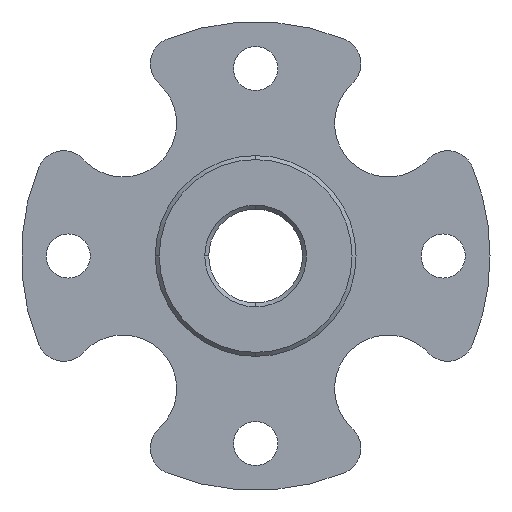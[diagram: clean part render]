
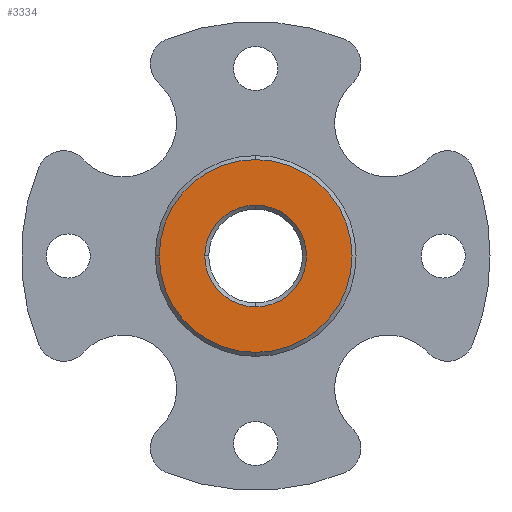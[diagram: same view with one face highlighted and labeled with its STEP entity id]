
A CAD part, front view. The second image highlights one B-rep face of the part: STEP entity #3334.
In plain terms, the highlighted planar face has unit normal (0, -1, 0).
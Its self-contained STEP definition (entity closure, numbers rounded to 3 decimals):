
#320 = CARTESIAN_POINT ( 'NONE',  ( 17.508, -2.5, -17.508 ) ) ;
#452 = VERTEX_POINT ( 'NONE', #12897 ) ;
#674 = CARTESIAN_POINT ( 'NONE',  ( 17.508, -2.5, -13.708 ) ) ;
#728 = DIRECTION ( 'NONE',  ( 0., 0., 1. ) ) ;
#866 = FACE_BOUND ( 'NONE', #9083, .T. ) ;
#969 = DIRECTION ( 'NONE',  ( 0., 0., 1. ) ) ;
#1058 = AXIS2_PLACEMENT_3D ( 'NONE', #4663, #5866, #1572 ) ;
#1186 = CIRCLE ( 'NONE', #7560, 7.2 ) ;
#1200 = ORIENTED_EDGE ( 'NONE', *, *, #11844, .T. ) ;
#1221 = CARTESIAN_POINT ( 'NONE',  ( 13.708, -2.5, -17.508 ) ) ;
#1572 = DIRECTION ( 'NONE',  ( 0., 0., 1. ) ) ;
#3241 = EDGE_CURVE ( 'NONE', #11467, #10746, #7042, .T. ) ;
#3334 = ADVANCED_FACE ( 'NONE', ( #866, #6568 ), #5296, .F. ) ;
#3399 = AXIS2_PLACEMENT_3D ( 'NONE', #8835, #10824, #13175 ) ;
#3764 = CARTESIAN_POINT ( 'NONE',  ( 17.508, -2.5, -10.308 ) ) ;
#3978 = EDGE_CURVE ( 'NONE', #452, #4382, #1186, .T. ) ;
#4295 = DIRECTION ( 'NONE',  ( 0., 1., 0. ) ) ;
#4325 = CARTESIAN_POINT ( 'NONE',  ( 17.508, -2.5, -17.508 ) ) ;
#4382 = VERTEX_POINT ( 'NONE', #9774 ) ;
#4537 = DIRECTION ( 'NONE',  ( 0., -1., 0. ) ) ;
#4566 = CARTESIAN_POINT ( 'NONE',  ( 17.508, -2.5, -17.508 ) ) ;
#4663 = CARTESIAN_POINT ( 'NONE',  ( 17.508, -2.5, -17.508 ) ) ;
#4771 = ORIENTED_EDGE ( 'NONE', *, *, #7154, .T. ) ;
#5258 = DIRECTION ( 'NONE',  ( 0., -1., 0. ) ) ;
#5296 = PLANE ( 'NONE',  #14126 ) ;
#5592 = VERTEX_POINT ( 'NONE', #674 ) ;
#5622 = ORIENTED_EDGE ( 'NONE', *, *, #3978, .T. ) ;
#5866 = DIRECTION ( 'NONE',  ( 0., -1., 0. ) ) ;
#6287 = VERTEX_POINT ( 'NONE', #3764 ) ;
#6296 = ORIENTED_EDGE ( 'NONE', *, *, #3241, .T. ) ;
#6498 = CARTESIAN_POINT ( 'NONE',  ( 17.508, -2.5, -17.508 ) ) ;
#6558 = ORIENTED_EDGE ( 'NONE', *, *, #10836, .T. ) ;
#6568 = FACE_OUTER_BOUND ( 'NONE', #9715, .T. ) ;
#7042 = CIRCLE ( 'NONE', #3399, 3.8 ) ;
#7154 = EDGE_CURVE ( 'NONE', #5592, #11467, #11911, .T. ) ;
#7206 = CIRCLE ( 'NONE', #1058, 7.2 ) ;
#7359 = DIRECTION ( 'NONE',  ( 0., 0., -1. ) ) ;
#7560 = AXIS2_PLACEMENT_3D ( 'NONE', #4325, #5258, #969 ) ;
#7732 = DIRECTION ( 'NONE',  ( 0., 0., -1. ) ) ;
#8010 = ORIENTED_EDGE ( 'NONE', *, *, #8304, .T. ) ;
#8304 = EDGE_CURVE ( 'NONE', #10746, #5592, #12229, .T. ) ;
#8835 = CARTESIAN_POINT ( 'NONE',  ( 17.508, -2.5, -17.508 ) ) ;
#9083 = EDGE_LOOP ( 'NONE', ( #6296, #8010, #4771 ) ) ;
#9578 = AXIS2_PLACEMENT_3D ( 'NONE', #320, #4537, #7732 ) ;
#9715 = EDGE_LOOP ( 'NONE', ( #1200, #6558, #5622 ) ) ;
#9774 = CARTESIAN_POINT ( 'NONE',  ( 17.508, -2.5, -24.708 ) ) ;
#9904 = DIRECTION ( 'NONE',  ( 0., 1., 0. ) ) ;
#10241 = CIRCLE ( 'NONE', #9578, 7.2 ) ;
#10494 = DIRECTION ( 'NONE',  ( 0., 1., 0. ) ) ;
#10746 = VERTEX_POINT ( 'NONE', #1221 ) ;
#10824 = DIRECTION ( 'NONE',  ( 0., 1., 0. ) ) ;
#10834 = DIRECTION ( 'NONE',  ( 0., 0., -1. ) ) ;
#10836 = EDGE_CURVE ( 'NONE', #6287, #452, #7206, .T. ) ;
#11467 = VERTEX_POINT ( 'NONE', #13455 ) ;
#11844 = EDGE_CURVE ( 'NONE', #4382, #6287, #10241, .T. ) ;
#11911 = CIRCLE ( 'NONE', #13748, 3.8 ) ;
#12000 = AXIS2_PLACEMENT_3D ( 'NONE', #4566, #9904, #10834 ) ;
#12229 = CIRCLE ( 'NONE', #12000, 3.8 ) ;
#12419 = CARTESIAN_POINT ( 'NONE',  ( 17.508, -2.5, -17.508 ) ) ;
#12897 = CARTESIAN_POINT ( 'NONE',  ( 10.308, -2.5, -17.508 ) ) ;
#13175 = DIRECTION ( 'NONE',  ( 0., 0., -1. ) ) ;
#13455 = CARTESIAN_POINT ( 'NONE',  ( 17.508, -2.5, -21.308 ) ) ;
#13748 = AXIS2_PLACEMENT_3D ( 'NONE', #12419, #10494, #728 ) ;
#14126 = AXIS2_PLACEMENT_3D ( 'NONE', #6498, #4295, #7359 ) ;
